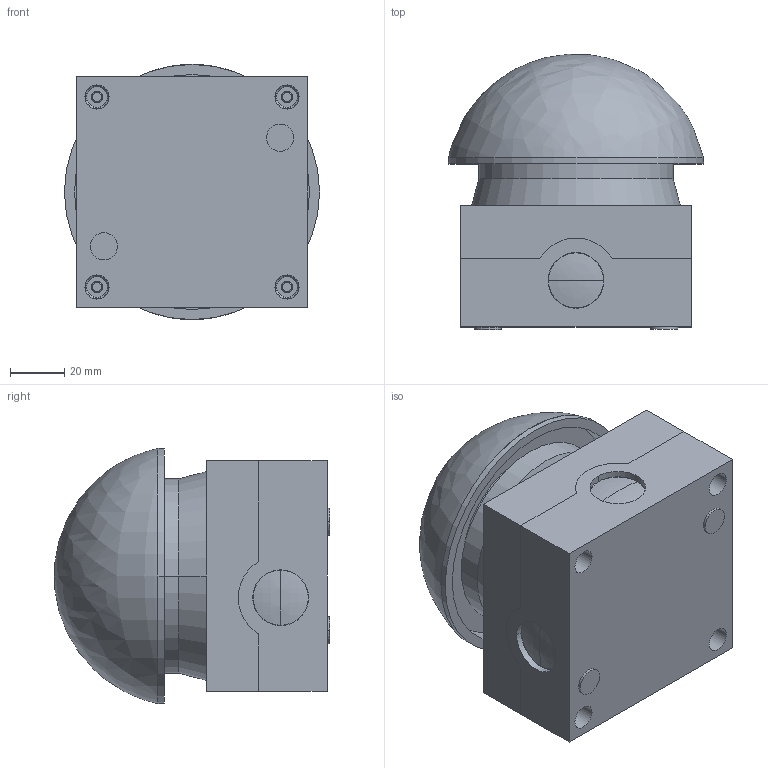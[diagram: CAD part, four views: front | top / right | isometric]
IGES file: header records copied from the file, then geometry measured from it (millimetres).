
Start section: Data from XPlus IGES,  Spatial Corp. Copyright (c) 1999-2004
Global section: file name: 229749.igs; native system:  By Spatial Corp.; preprocessor: XPlus ACIS/IGES 3.0; author: Noname; organization: Noname; date: 20120530.180041; units: millimetre
Bounding box: 94 x 101.34 x 94 mm (x, y, z)
Surface area: 83251.1 mm2 (no closed solid volume)
Topology: 0 solids, 0 shells, 285 faces, 1376 edges, 1372 vertices
Faces by surface type: revolution 172, extrusion 113
